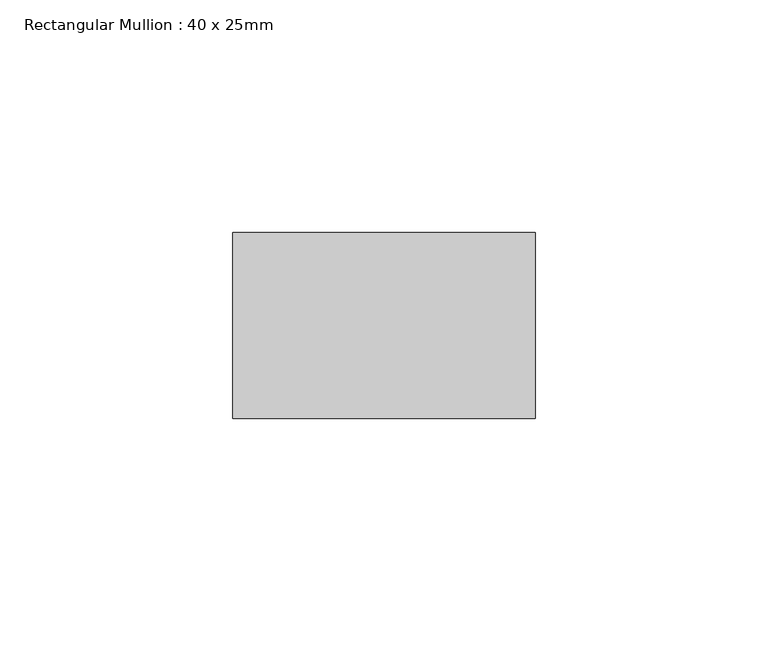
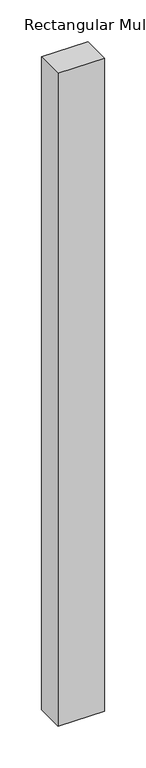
"""IFC4 building model written with IfcOpenShell, lengths in millimetres: member geometry, Rectangular Mullion : 40 x 25mm."""

from ifc_helpers import new_model, si_unit, frame, origin, place, context, project, spatial, polyline, outline, extrude, source, transform, mapped, element, save


def rectangular_mullion_40_x_25mm_0f8ddd52(model_context):
    return source(origin(), model_context, "Body", "SweptSolid", [
        extrude(outline(polyline([(0.0, -20.0), (0.0, -60.0), (-65.0, -60.0), (-65.0, -20.0), (0.0, -20.0)])), frame((0.0, 0.0, -960.0), z_axis=(0.0, 0.0, 1.0), x_axis=(1.0, 0.0, 0.0)), (0.0, 0.0, 1.0), 960.0),
    ])


if __name__ == "__main__":
    model = new_model("IFC4")
    model_context = context("Model", 3, world=origin())
    ifc_project = project(units=[si_unit("LENGTHUNIT", "METRE", prefix="MILLI")], contexts=[model_context])
    site = spatial("IfcSite", under=ifc_project)
    building = spatial("IfcBuilding", under=site)
    placement = place(None, origin())
    rectangular_mullion_40_x_25mm_shape = rectangular_mullion_40_x_25mm_0f8ddd52(model_context)
    element("IfcMember", 1, ObjectType="Rectangular Mullion : 40 x 25mm", at=placement, inside=building, context=model_context, shape_type="MappedRepresentation", body=[
        mapped(rectangular_mullion_40_x_25mm_shape, transform((0.0, 0.0, 0.0), x_axis=(1.0, 0.0, 0.0), y_axis=(0.0, 1.0, 0.0), z_axis=(0.0, 0.0, 1.0))),
    ])
    save(model, "model.ifc")
